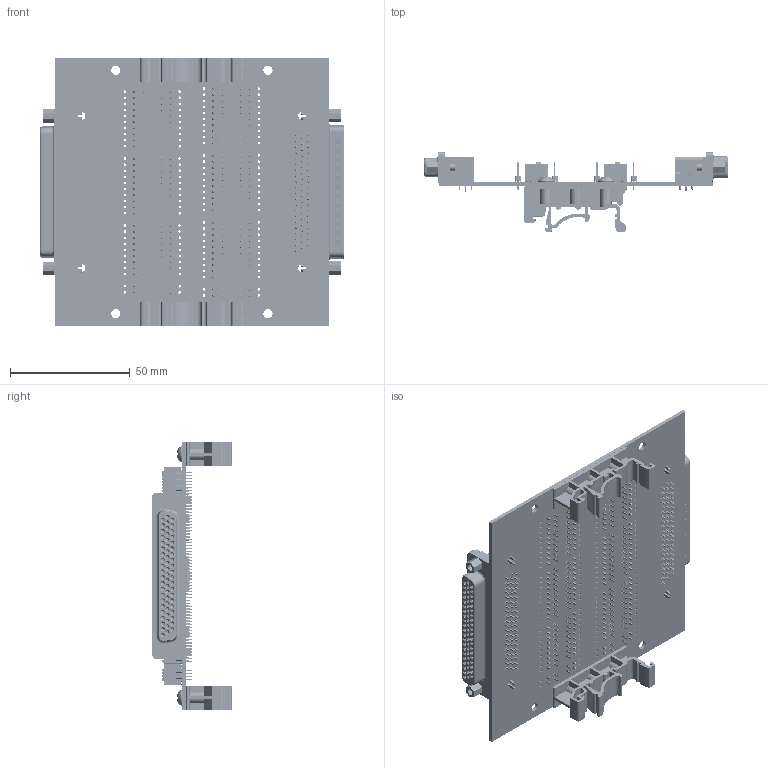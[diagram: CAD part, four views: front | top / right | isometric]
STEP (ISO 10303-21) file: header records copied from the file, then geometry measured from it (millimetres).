
FILE_DESCRIPTION (( 'STEP AP214' ), '1' );
FILE_NAME ('btsd62hd-r-din_rev_a.step', '2023-06-19T13:22:43', ( '' ), ( '' ), 'SwSTEP 2.0', 'SolidWorks 2018', '' );
FILE_SCHEMA (( 'AUTOMOTIVE_DESIGN' ));
Length unit declared in the file: inch
Products named in the file (13): 62 Pin Male D-sub Connector; single row header- 9 position; btsd62hd-r-din_rev_a; DIP Switch 9 Pin; dinm01; Screw_SCSMPP-6-0.375_90184A127; single row header- 2 position; DIP Switch 2 Pin; single row header- 10 position; BTSD62HD_PCB; #4-40 Hex Screw; Female Right Angle 62 Pin; DIP Switch 10 pin
Assembly tree (37 placements, depth 2):
  btsd62hd-r-din_rev_a
    BTSD62HD_PCB
    62 Pin Male D-sub Connector
    Female Right Angle 62 Pin
    #4-40 Hex Screw  x4
    DIP Switch 10 pin  x5
    DIP Switch 9 Pin
    DIP Switch 2 Pin  x2
    single row header- 10 position  x10
    single row header- 9 position  x2
    single row header- 2 position  x4
    dinm01  x2
    Screw_SCSMPP-6-0.375_90184A127  x4
Bounding box: 126.71 x 33.11 x 111.76 mm (x, y, z)
Volume: 57195.6 mm3; surface area: 90790.8 mm2
Topology: 372 solids, 376 shells, 27186 faces, 72941 edges, 47179 vertices
Faces by surface type: plane 18964, cylinder 3999, bspline 3578, sphere 256, cone 230, torus 159
Entity records: 820402 total; most frequent: CARTESIAN_POINT 263573, ORIENTED_EDGE 94976, DIRECTION 78511, EDGE_CURVE 47488, VECTOR 33361, LINE 33361, VERTEX_POINT 30986, AXIS2_PLACEMENT_3D 22575
